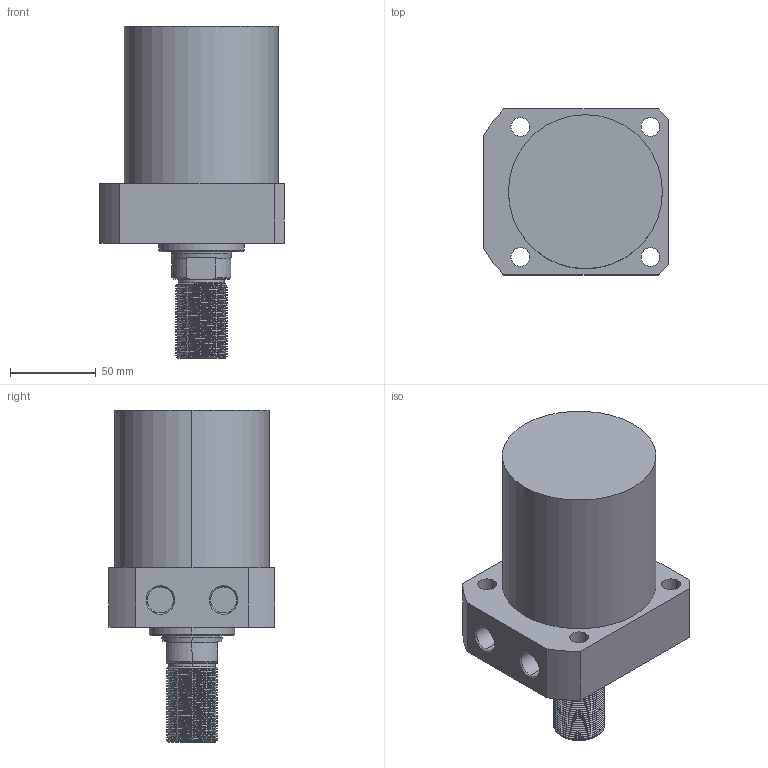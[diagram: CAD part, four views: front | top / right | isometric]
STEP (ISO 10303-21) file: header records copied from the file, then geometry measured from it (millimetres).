
FILE_DESCRIPTION (( 'STEP AP214' ), '1' );
FILE_NAME ('CLLR-090CT-070.STEP', '2020-01-09T06:52:30', ( 'Windows' ), ( 'Microsoft' ), 'SwSTEP 2.0', 'SolidWorks 2015', '' );
FILE_SCHEMA (( 'AUTOMOTIVE_DESIGN' ));
Length unit declared in the file: millimetre
Products named in the file (1): CLLR-090CT-070
Bounding box: 108 x 97 x 194 mm (x, y, z)
Volume: 976976.1 mm3; surface area: 76294.8 mm2
Topology: 1 solids, 1 shells, 124 faces, 331 edges, 217 vertices
Faces by surface type: cylinder 85, plane 20, cone 17, bspline 2
Entity records: 7046 total; most frequent: CARTESIAN_POINT 4213, ORIENTED_EDGE 662, DIRECTION 520, EDGE_CURVE 331, VERTEX_POINT 217, AXIS2_PLACEMENT_3D 199, EDGE_LOOP 140, FACE_OUTER_BOUND 124
